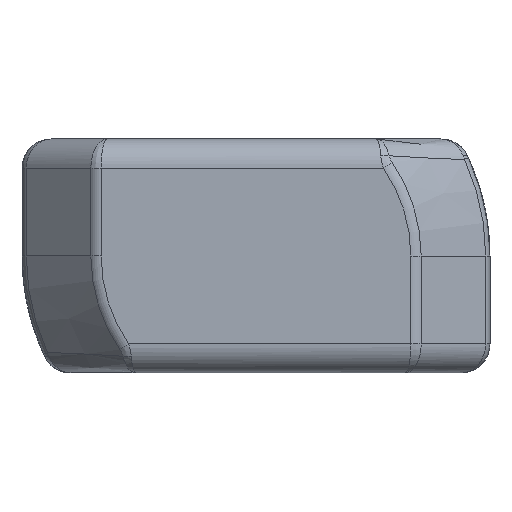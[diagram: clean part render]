
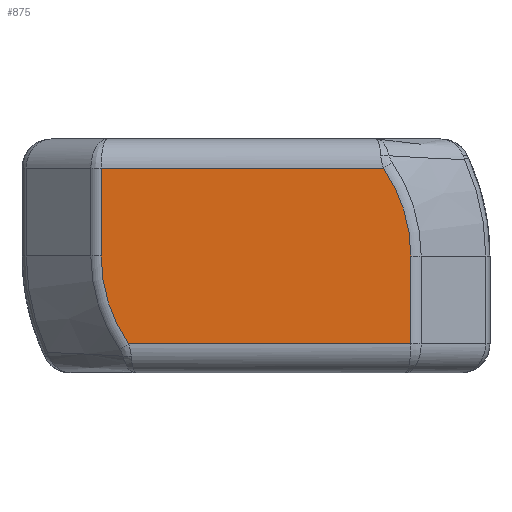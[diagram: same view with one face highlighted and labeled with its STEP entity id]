
A CAD part, front view. The second image highlights one B-rep face of the part: STEP entity #875.
In plain terms, the highlighted planar face has unit normal (0, -1, 0).
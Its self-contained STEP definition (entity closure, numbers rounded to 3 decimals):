
#35 = VECTOR ( 'NONE', #4200, 1000. ) ;
#92 = LINE ( 'NONE', #6850, #3369 ) ;
#137 = LINE ( 'NONE', #1195, #3683 ) ;
#503 = DIRECTION ( 'NONE',  ( 1., 0., 0. ) ) ;
#532 = ORIENTED_EDGE ( 'NONE', *, *, #6916, .T. ) ;
#767 = CIRCLE ( 'NONE', #1732, 5.293 ) ;
#875 = ADVANCED_FACE ( 'NONE', ( #4883 ), #1065, .F. ) ;
#1065 = PLANE ( 'NONE',  #5693 ) ;
#1195 = CARTESIAN_POINT ( 'NONE',  ( 5.293, 0., 0. ) ) ;
#1270 = DIRECTION ( 'NONE',  ( 0., 0., 1. ) ) ;
#1519 = CARTESIAN_POINT ( 'NONE',  ( -5.293, 0., 0. ) ) ;
#1592 = EDGE_LOOP ( 'NONE', ( #3484, #532, #6715, #4357, #6723, #5342 ) ) ;
#1732 = AXIS2_PLACEMENT_3D ( 'NONE', #5049, #6535, #5391 ) ;
#1891 = CARTESIAN_POINT ( 'NONE',  ( 0., 0., 3. ) ) ;
#2024 = CARTESIAN_POINT ( 'NONE',  ( 0., 0., 0. ) ) ;
#2281 = CARTESIAN_POINT ( 'NONE',  ( -4.361, 0., -3. ) ) ;
#2337 = VERTEX_POINT ( 'NONE', #5529 ) ;
#2985 = AXIS2_PLACEMENT_3D ( 'NONE', #5731, #5184, #6220 ) ;
#3156 = EDGE_CURVE ( 'NONE', #3261, #5501, #3754, .T. ) ;
#3261 = VERTEX_POINT ( 'NONE', #4555 ) ;
#3369 = VECTOR ( 'NONE', #6358, 1000. ) ;
#3424 = EDGE_CURVE ( 'NONE', #5844, #2337, #137, .T. ) ;
#3454 = CARTESIAN_POINT ( 'NONE',  ( -5.293, 0., 0. ) ) ;
#3484 = ORIENTED_EDGE ( 'NONE', *, *, #5164, .T. ) ;
#3683 = VECTOR ( 'NONE', #1270, 1000. ) ;
#3686 = VERTEX_POINT ( 'NONE', #2281 ) ;
#3754 = LINE ( 'NONE', #1519, #4403 ) ;
#3838 = CIRCLE ( 'NONE', #2985, 5.293 ) ;
#3948 = EDGE_CURVE ( 'NONE', #3979, #3261, #4747, .T. ) ;
#3979 = VERTEX_POINT ( 'NONE', #7336 ) ;
#4075 = EDGE_CURVE ( 'NONE', #2337, #3979, #767, .T. ) ;
#4200 = DIRECTION ( 'NONE',  ( -1., 0., 0. ) ) ;
#4357 = ORIENTED_EDGE ( 'NONE', *, *, #4075, .T. ) ;
#4359 = CARTESIAN_POINT ( 'NONE',  ( 5.293, 0., -3. ) ) ;
#4403 = VECTOR ( 'NONE', #7081, 1000. ) ;
#4555 = CARTESIAN_POINT ( 'NONE',  ( -5.293, 0., 3. ) ) ;
#4747 = LINE ( 'NONE', #1891, #35 ) ;
#4883 = FACE_OUTER_BOUND ( 'NONE', #1592, .T. ) ;
#5049 = CARTESIAN_POINT ( 'NONE',  ( 0., 0., 0. ) ) ;
#5164 = EDGE_CURVE ( 'NONE', #5501, #3686, #3838, .T. ) ;
#5184 = DIRECTION ( 'NONE',  ( 0., -1., 0. ) ) ;
#5342 = ORIENTED_EDGE ( 'NONE', *, *, #3156, .T. ) ;
#5391 = DIRECTION ( 'NONE',  ( 0., 0., 1. ) ) ;
#5501 = VERTEX_POINT ( 'NONE', #3454 ) ;
#5529 = CARTESIAN_POINT ( 'NONE',  ( 5.293, 0., 0. ) ) ;
#5693 = AXIS2_PLACEMENT_3D ( 'NONE', #2024, #6126, #503 ) ;
#5731 = CARTESIAN_POINT ( 'NONE',  ( 0., 0., 0. ) ) ;
#5844 = VERTEX_POINT ( 'NONE', #4359 ) ;
#6126 = DIRECTION ( 'NONE',  ( 0., 1., 0. ) ) ;
#6220 = DIRECTION ( 'NONE',  ( 0., 0., 1. ) ) ;
#6358 = DIRECTION ( 'NONE',  ( 1., 0., 0. ) ) ;
#6535 = DIRECTION ( 'NONE',  ( 0., -1., 0. ) ) ;
#6715 = ORIENTED_EDGE ( 'NONE', *, *, #3424, .T. ) ;
#6723 = ORIENTED_EDGE ( 'NONE', *, *, #3948, .T. ) ;
#6850 = CARTESIAN_POINT ( 'NONE',  ( 0., 0., -3. ) ) ;
#6916 = EDGE_CURVE ( 'NONE', #3686, #5844, #92, .T. ) ;
#7081 = DIRECTION ( 'NONE',  ( 0., 0., -1. ) ) ;
#7336 = CARTESIAN_POINT ( 'NONE',  ( 4.361, 0., 3. ) ) ;
